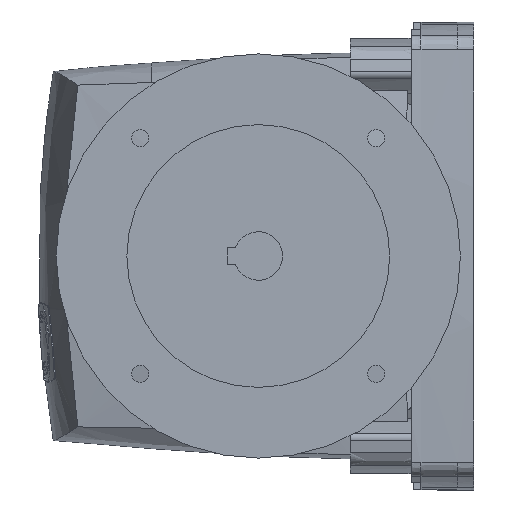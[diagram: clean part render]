
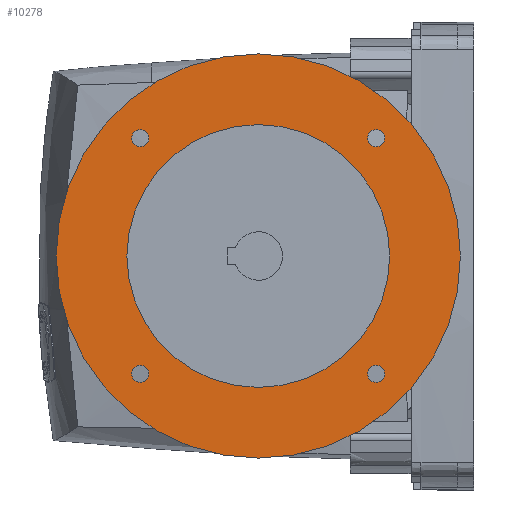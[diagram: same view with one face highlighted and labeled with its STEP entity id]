
A CAD part, left-side view. The second image highlights one B-rep face of the part: STEP entity #10278.
In plain terms, the highlighted planar face has unit normal (-1, 0, 0).
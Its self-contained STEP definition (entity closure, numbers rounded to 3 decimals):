
#845=CARTESIAN_POINT('',(-146.707,101.5,0.));
#846=DIRECTION('',(1.,0.,0.));
#847=DIRECTION('',(0.,1.,0.));
#848=AXIS2_PLACEMENT_3D('',#845,#846,#847);
#850=CARTESIAN_POINT('',(-146.707,101.5,0.));
#851=DIRECTION('',(-1.,0.,0.));
#852=DIRECTION('',(0.,1.,0.));
#853=AXIS2_PLACEMENT_3D('',#850,#851,#852);
#855=CARTESIAN_POINT('',(-146.707,101.5,0.));
#856=DIRECTION('',(-1.,0.,0.));
#857=DIRECTION('',(0.,1.,0.));
#858=AXIS2_PLACEMENT_3D('',#855,#856,#857);
#860=CARTESIAN_POINT('',(-146.707,101.5,0.));
#861=DIRECTION('',(1.,0.,0.));
#862=DIRECTION('',(0.,1.,0.));
#863=AXIS2_PLACEMENT_3D('',#860,#861,#862);
#865=CARTESIAN_POINT('',(-146.707,159.836,58.336));
#866=DIRECTION('',(-1.,0.,0.));
#867=DIRECTION('',(0.,0.,1.));
#868=AXIS2_PLACEMENT_3D('',#865,#866,#867);
#870=CARTESIAN_POINT('',(-146.707,159.836,58.336));
#871=DIRECTION('',(-1.,0.,0.));
#872=DIRECTION('',(0.,0.,-1.));
#873=AXIS2_PLACEMENT_3D('',#870,#871,#872);
#875=CARTESIAN_POINT('',(-146.707,159.836,-58.336));
#876=DIRECTION('',(-1.,0.,0.));
#877=DIRECTION('',(0.,0.,1.));
#878=AXIS2_PLACEMENT_3D('',#875,#876,#877);
#880=CARTESIAN_POINT('',(-146.707,159.836,-58.336));
#881=DIRECTION('',(-1.,0.,0.));
#882=DIRECTION('',(0.,0.,-1.));
#883=AXIS2_PLACEMENT_3D('',#880,#881,#882);
#885=CARTESIAN_POINT('',(-146.707,43.164,-58.336));
#886=DIRECTION('',(-1.,0.,0.));
#887=DIRECTION('',(0.,0.,1.));
#888=AXIS2_PLACEMENT_3D('',#885,#886,#887);
#890=CARTESIAN_POINT('',(-146.707,43.164,-58.336));
#891=DIRECTION('',(-1.,0.,0.));
#892=DIRECTION('',(0.,0.,-1.));
#893=AXIS2_PLACEMENT_3D('',#890,#891,#892);
#895=CARTESIAN_POINT('',(-146.707,43.164,58.336));
#896=DIRECTION('',(-1.,0.,0.));
#897=DIRECTION('',(0.,0.,1.));
#898=AXIS2_PLACEMENT_3D('',#895,#896,#897);
#900=CARTESIAN_POINT('',(-146.707,43.164,58.336));
#901=DIRECTION('',(-1.,0.,0.));
#902=DIRECTION('',(0.,0.,-1.));
#903=AXIS2_PLACEMENT_3D('',#900,#901,#902);
#8912=CARTESIAN_POINT('',(-146.707,166.5,0.));
#8914=VERTEX_POINT('',#8912);
#8915=CARTESIAN_POINT('',(-146.707,201.5,0.));
#8917=VERTEX_POINT('',#8915);
#8920=CARTESIAN_POINT('',(-146.707,36.5,0.));
#8922=VERTEX_POINT('',#8920);
#8923=CARTESIAN_POINT('',(-146.707,1.5,0.));
#8925=VERTEX_POINT('',#8923);
#8935=CARTESIAN_POINT('',(-146.707,159.836,62.586));
#8936=CARTESIAN_POINT('',(-146.707,159.836,54.086));
#8937=VERTEX_POINT('',#8935);
#8938=VERTEX_POINT('',#8936);
#8939=CARTESIAN_POINT('',(-146.707,159.836,-54.086));
#8940=CARTESIAN_POINT('',(-146.707,159.836,-62.586));
#8941=VERTEX_POINT('',#8939);
#8942=VERTEX_POINT('',#8940);
#8943=CARTESIAN_POINT('',(-146.707,43.164,-54.086));
#8944=CARTESIAN_POINT('',(-146.707,43.164,-62.586));
#8945=VERTEX_POINT('',#8943);
#8946=VERTEX_POINT('',#8944);
#8947=CARTESIAN_POINT('',(-146.707,43.164,62.586));
#8948=CARTESIAN_POINT('',(-146.707,43.164,54.086));
#8949=VERTEX_POINT('',#8947);
#8950=VERTEX_POINT('',#8948);
#10239=CARTESIAN_POINT('',(-146.707,101.5,0.));
#10240=DIRECTION('',(-1.,0.,0.));
#10241=DIRECTION('',(0.,-1.,0.));
#10242=AXIS2_PLACEMENT_3D('',#10239,#10240,#10241);
#10243=PLANE('',#10242);
#10244=ORIENTED_EDGE('',*,*,#10221,.T.);
#10245=ORIENTED_EDGE('',*,*,#10232,.F.);
#10246=EDGE_LOOP('',(#10244,#10245));
#10247=FACE_OUTER_BOUND('',#10246,.F.);
#10249=ORIENTED_EDGE('',*,*,#10248,.T.);
#10251=ORIENTED_EDGE('',*,*,#10250,.F.);
#10252=EDGE_LOOP('',(#10249,#10251));
#10253=FACE_BOUND('',#10252,.F.);
#10255=ORIENTED_EDGE('',*,*,#10254,.T.);
#10257=ORIENTED_EDGE('',*,*,#10256,.T.);
#10258=EDGE_LOOP('',(#10255,#10257));
#10259=FACE_BOUND('',#10258,.F.);
#10261=ORIENTED_EDGE('',*,*,#10260,.T.);
#10263=ORIENTED_EDGE('',*,*,#10262,.T.);
#10264=EDGE_LOOP('',(#10261,#10263));
#10265=FACE_BOUND('',#10264,.F.);
#10267=ORIENTED_EDGE('',*,*,#10266,.T.);
#10269=ORIENTED_EDGE('',*,*,#10268,.T.);
#10270=EDGE_LOOP('',(#10267,#10269));
#10271=FACE_BOUND('',#10270,.F.);
#10273=ORIENTED_EDGE('',*,*,#10272,.T.);
#10275=ORIENTED_EDGE('',*,*,#10274,.T.);
#10276=EDGE_LOOP('',(#10273,#10275));
#10277=FACE_BOUND('',#10276,.F.);
#10278=ADVANCED_FACE('',(#10247,#10253,#10259,#10265,#10271,#10277),#10243,.T.);
#849=CIRCLE('',#848,100.);
#854=CIRCLE('',#853,100.);
#859=CIRCLE('',#858,65.);
#864=CIRCLE('',#863,65.);
#869=CIRCLE('',#868,4.25);
#874=CIRCLE('',#873,4.25);
#879=CIRCLE('',#878,4.25);
#884=CIRCLE('',#883,4.25);
#889=CIRCLE('',#888,4.25);
#894=CIRCLE('',#893,4.25);
#899=CIRCLE('',#898,4.25);
#904=CIRCLE('',#903,4.25);
#10221=EDGE_CURVE('',#8917,#8925,#849,.T.);
#10232=EDGE_CURVE('',#8917,#8925,#854,.T.);
#10248=EDGE_CURVE('',#8914,#8922,#859,.T.);
#10250=EDGE_CURVE('',#8914,#8922,#864,.T.);
#10254=EDGE_CURVE('',#8937,#8938,#869,.T.);
#10256=EDGE_CURVE('',#8938,#8937,#874,.T.);
#10260=EDGE_CURVE('',#8941,#8942,#879,.T.);
#10262=EDGE_CURVE('',#8942,#8941,#884,.T.);
#10266=EDGE_CURVE('',#8945,#8946,#889,.T.);
#10268=EDGE_CURVE('',#8946,#8945,#894,.T.);
#10272=EDGE_CURVE('',#8949,#8950,#899,.T.);
#10274=EDGE_CURVE('',#8950,#8949,#904,.T.);
